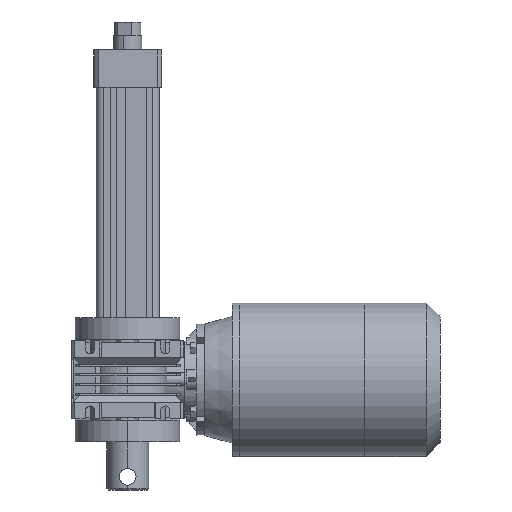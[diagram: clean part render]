
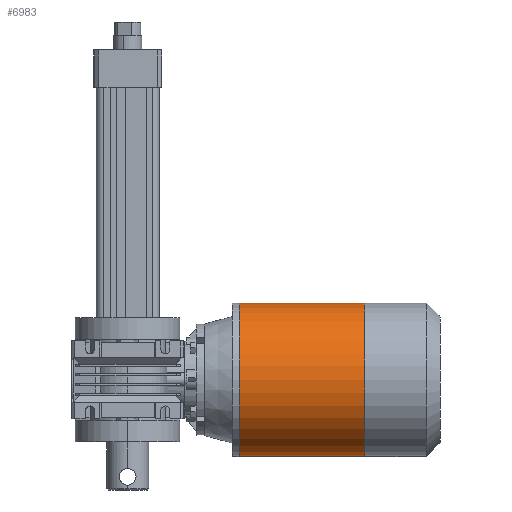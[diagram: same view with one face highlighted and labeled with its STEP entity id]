
A CAD part, front view. The second image highlights one B-rep face of the part: STEP entity #6983.
In plain terms, the highlighted cylindrical face has radius 55 mm (diameter 110 mm), a partial arc.
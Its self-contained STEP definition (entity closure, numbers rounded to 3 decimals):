
#1549 = CARTESIAN_POINT ( 'NONE',  ( 54.1, 0., -55. ) ) ;
#2749 = EDGE_CURVE ( 'NONE', #19667, #29932, #43008, .T. ) ;
#3175 = CARTESIAN_POINT ( 'NONE',  ( 144., 0., 0. ) ) ;
#5885 = DIRECTION ( 'NONE',  ( -1., 0., 0. ) ) ;
#6936 = DIRECTION ( 'NONE',  ( 0., 0., 1. ) ) ;
#6983 = ADVANCED_FACE ( 'NONE', ( #26787 ), #32055, .T. ) ;
#8334 = LINE ( 'NONE', #30492, #28335 ) ;
#9544 = CARTESIAN_POINT ( 'NONE',  ( 144., 0., -55. ) ) ;
#11037 = CIRCLE ( 'NONE', #21598, 55. ) ;
#14306 = EDGE_CURVE ( 'NONE', #44431, #43845, #8334, .T. ) ;
#15184 = CARTESIAN_POINT ( 'NONE',  ( 54.1, 0., 0. ) ) ;
#18925 = DIRECTION ( 'NONE',  ( 0., 0., 1. ) ) ;
#19201 = DIRECTION ( 'NONE',  ( -1., 0., 0. ) ) ;
#19667 = VERTEX_POINT ( 'NONE', #40722 ) ;
#21465 = EDGE_LOOP ( 'NONE', ( #35141, #43489, #46421, #31120 ) ) ;
#21598 = AXIS2_PLACEMENT_3D ( 'NONE', #15184, #41416, #18925 ) ;
#22753 = CIRCLE ( 'NONE', #37025, 55. ) ;
#24640 = CARTESIAN_POINT ( 'NONE',  ( 144., 0., 55. ) ) ;
#26787 = FACE_OUTER_BOUND ( 'NONE', #21465, .T. ) ;
#28185 = EDGE_CURVE ( 'NONE', #29932, #43845, #11037, .T. ) ;
#28335 = VECTOR ( 'NONE', #34133, 1000. ) ;
#29480 = DIRECTION ( 'NONE',  ( -1., 0., 0. ) ) ;
#29932 = VERTEX_POINT ( 'NONE', #44093 ) ;
#30492 = CARTESIAN_POINT ( 'NONE',  ( 144., 0., -55. ) ) ;
#31120 = ORIENTED_EDGE ( 'NONE', *, *, #28185, .T. ) ;
#32055 = CYLINDRICAL_SURFACE ( 'NONE', #43529, 55. ) ;
#34133 = DIRECTION ( 'NONE',  ( -1., 0., 0. ) ) ;
#34344 = DIRECTION ( 'NONE',  ( 0., 0., 1. ) ) ;
#35141 = ORIENTED_EDGE ( 'NONE', *, *, #14306, .F. ) ;
#37025 = AXIS2_PLACEMENT_3D ( 'NONE', #3175, #29480, #6936 ) ;
#37957 = CARTESIAN_POINT ( 'NONE',  ( 144., 0., 0. ) ) ;
#40722 = CARTESIAN_POINT ( 'NONE',  ( 144., 0., 55. ) ) ;
#41416 = DIRECTION ( 'NONE',  ( 1., 0., 0. ) ) ;
#43008 = LINE ( 'NONE', #24640, #44161 ) ;
#43489 = ORIENTED_EDGE ( 'NONE', *, *, #45065, .T. ) ;
#43529 = AXIS2_PLACEMENT_3D ( 'NONE', #37957, #19201, #34344 ) ;
#43845 = VERTEX_POINT ( 'NONE', #1549 ) ;
#44093 = CARTESIAN_POINT ( 'NONE',  ( 54.1, 0., 55. ) ) ;
#44161 = VECTOR ( 'NONE', #5885, 1000. ) ;
#44431 = VERTEX_POINT ( 'NONE', #9544 ) ;
#45065 = EDGE_CURVE ( 'NONE', #44431, #19667, #22753, .T. ) ;
#46421 = ORIENTED_EDGE ( 'NONE', *, *, #2749, .T. ) ;
